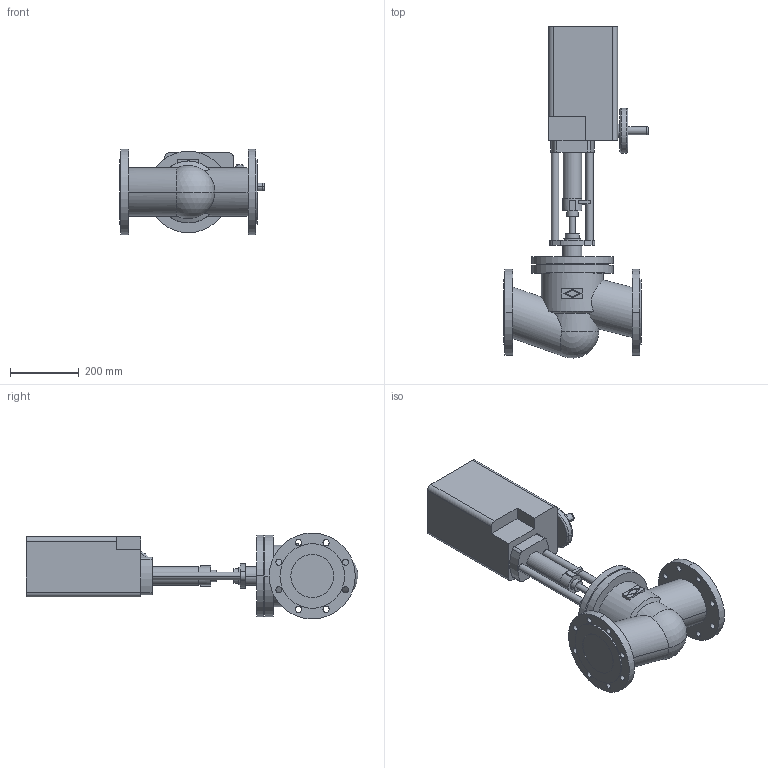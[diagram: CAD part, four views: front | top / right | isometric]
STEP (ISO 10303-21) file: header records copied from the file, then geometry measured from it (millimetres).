
FILE_DESCRIPTION(('OneSpaceDesigner STEP Export'),'2;1');
FILE_NAME('c000003125.stp','2007-01-16T10:42:25',(''),(''),'OneSpace Designer STEP processor for AP214 (Solid Model)','OneSpace Designer 14.00B 27-May-2006 (C) CoCreate Software GmbH','');
FILE_SCHEMA(('AUTOMOTIVE_DESIGN { 1 0 10303 214 1 1 1 1 }'));
Length unit declared in the file: millimetre
Products named in the file (2): 1; 2
Bounding box: 421.6 x 965.4 x 250 mm (x, y, z)
Volume: 25447248.1 mm3; surface area: 1011338.7 mm2
Topology: 2 solids, 2 shells, 180 faces, 443 edges, 293 vertices
Faces by surface type: cylinder 96, plane 74, torus 6, sphere 2, cone 2
Entity records: 5113 total; most frequent: CARTESIAN_POINT 1088, ORIENTED_EDGE 882, DIRECTION 740, EDGE_CURVE 441, VERTEX_POINT 293, AXIS2_PLACEMENT_3D 266, EDGE_LOOP 240, VECTOR 208
